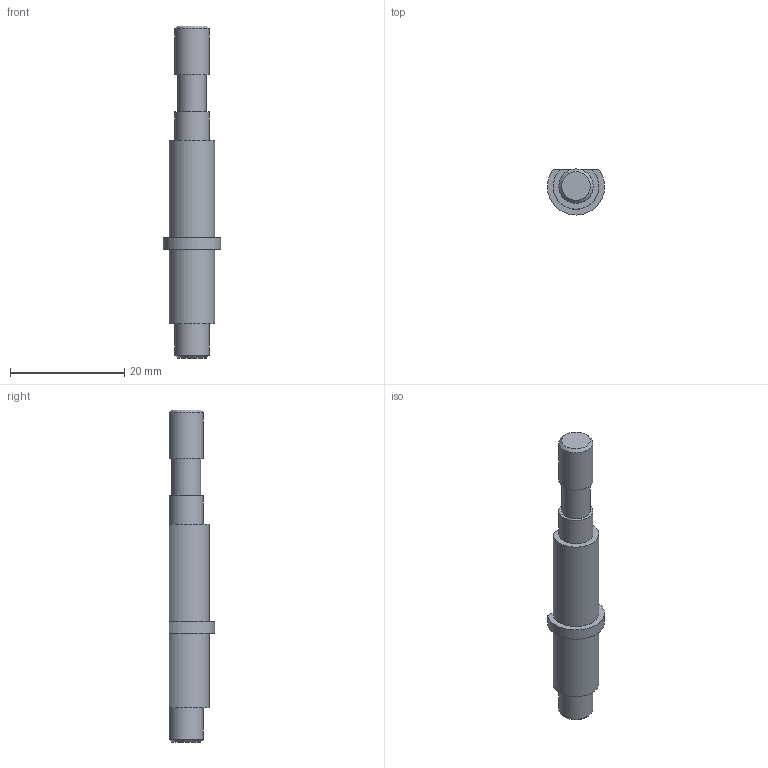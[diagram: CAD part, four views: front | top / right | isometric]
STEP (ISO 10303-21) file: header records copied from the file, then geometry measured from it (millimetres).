
FILE_DESCRIPTION(/* description */ (''),/* implementation_level */ '2;1');
FILE_NAME(/* name */ 'arbre_roue.stp',/* time_stamp */ '2025-04-08T16:53:36+02:00',/* author */ ('enezl'),/* organization */ (''),/* preprocessor_version */ 'ST-DEVELOPER v20',/* originating_system */ 'Autodesk Inventor 2025',/* authorisation */ '');
FILE_SCHEMA (('AUTOMOTIVE_DESIGN { 1 0 10303 214 3 1 1 }'));
Length unit declared in the file: millimetre
Products named in the file (1): arbre_roue
Bounding box: 9.99 x 8 x 58 mm (x, y, z)
Volume: 2208.4 mm3; surface area: 1409.5 mm2
Topology: 1 solids, 1 shells, 18 faces, 40 edges, 26 vertices
Faces by surface type: plane 9, cylinder 7, cone 2
Full cylindrical faces by diameter (mm): 5 x1, 6 x3
Entity records: 551 total; most frequent: DIRECTION 98, CARTESIAN_POINT 85, ORIENTED_EDGE 80, EDGE_CURVE 40, AXIS2_PLACEMENT_3D 39, VERTEX_POINT 26, EDGE_LOOP 20, LINE 20
